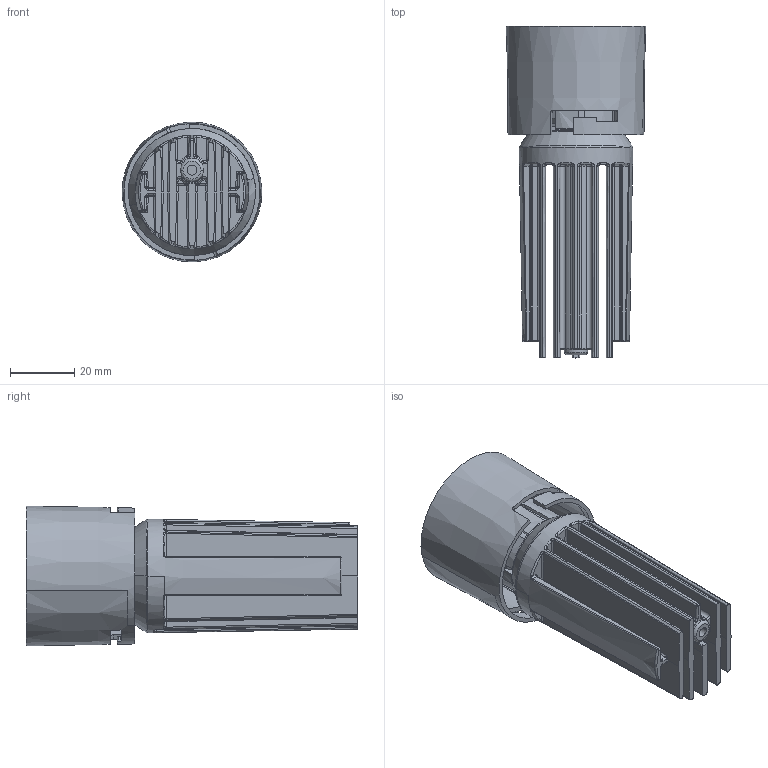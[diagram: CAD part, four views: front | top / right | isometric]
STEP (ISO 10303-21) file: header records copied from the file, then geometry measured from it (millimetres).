
FILE_DESCRIPTION((''),'2;1');
FILE_NAME('MENO-LED-TONDO_SW0001','2025-05-15T16:09:37',('elena.baldelli'),(''),'CREO PARAMETRIC BY PTC INC, 2020354','CREO PARAMETRIC BY PTC INC, 2020354','');
FILE_SCHEMA(('CONFIG_CONTROL_DESIGN'));
Length unit declared in the file: millimetre
Products named in the file (1): MENO-LED-TONDO_SW0001
Bounding box: 43.37 x 103 x 43.37 mm (x, y, z)
Surface area: 42353.8 mm2 (no closed solid volume)
Topology: 0 solids, 6 shells, 428 faces, 1170 edges, 732 vertices
Faces by surface type: cylinder 145, plane 104, torus 76, bspline 65, cone 24, sphere 14
Entity records: 20848 total; most frequent: CARTESIAN_POINT 10717, ORIENTED_EDGE 2188, DIRECTION 1992, EDGE_CURVE 1166, AXIS2_PLACEMENT_3D 819, VERTEX_POINT 732, CIRCLE 456, EDGE_LOOP 437
